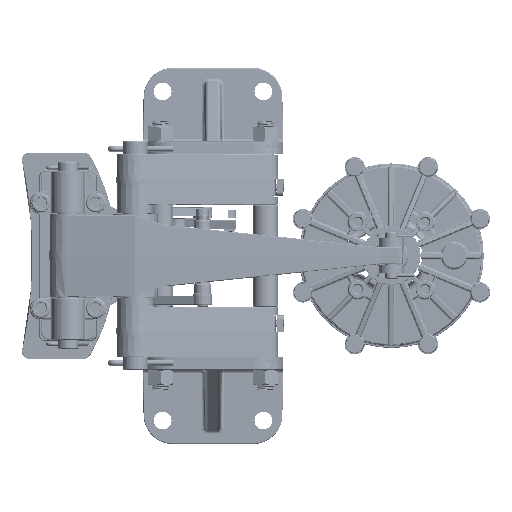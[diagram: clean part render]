
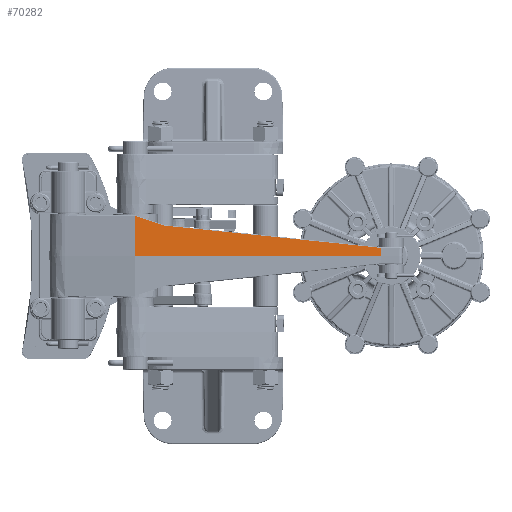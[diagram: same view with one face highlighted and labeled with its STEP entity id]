
A CAD part, top view. The second image highlights one B-rep face of the part: STEP entity #70282.
In plain terms, the highlighted planar face has unit normal (0.048, 0.018, 0.999).
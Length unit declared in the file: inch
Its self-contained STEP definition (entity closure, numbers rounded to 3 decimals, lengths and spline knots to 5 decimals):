
#3627 = CARTESIAN_POINT ( 'NONE',  ( 7.86898, 0.00336, 2.91648 ) ) ;
#5274 = EDGE_LOOP ( 'NONE', ( #45416, #41837, #53367, #137872, #64491, #80829 ) ) ;
#10650 = VERTEX_POINT ( 'NONE', #187514 ) ;
#12518 = CARTESIAN_POINT ( 'NONE',  ( 7.8689, 0.23036, 2.91252 ) ) ;
#16451 = DIRECTION ( 'NONE',  ( -0.999, 0., 0.048 ) ) ;
#18361 = FACE_OUTER_BOUND ( 'NONE', #5274, .T. ) ;
#33215 = LINE ( 'NONE', #160256, #149204 ) ;
#36230 = VERTEX_POINT ( 'NONE', #62778 ) ;
#37890 = VECTOR ( 'NONE', #185084, 39.37008 ) ;
#38144 = EDGE_CURVE ( 'NONE', #170168, #75728, #118565, .T. ) ;
#41837 = ORIENTED_EDGE ( 'NONE', *, *, #105638, .T. ) ;
#45416 = ORIENTED_EDGE ( 'NONE', *, *, #92837, .T. ) ;
#45620 = CARTESIAN_POINT ( 'NONE',  ( 7.8689, 0.23035, 2.91252 ) ) ;
#45712 = LINE ( 'NONE', #88452, #121652 ) ;
#53367 = ORIENTED_EDGE ( 'NONE', *, *, #119296, .F. ) ;
#59330 = CARTESIAN_POINT ( 'NONE',  ( 7.86898, 0., 2.91654 ) ) ;
#60076 = CARTESIAN_POINT ( 'NONE',  ( 0.55815, 0., 3.26499 ) ) ;
#61581 = DIRECTION ( 'NONE',  ( 0.001, 1., -0.018 ) ) ;
#62154 = CARTESIAN_POINT ( 'NONE',  ( 0.6036, 0., 3.26282 ) ) ;
#62778 = CARTESIAN_POINT ( 'NONE',  ( 7.8689, 0.23036, 2.91252 ) ) ;
#64491 = ORIENTED_EDGE ( 'NONE', *, *, #38144, .T. ) ;
#65773 = PLANE ( 'NONE',  #110504 ) ;
#66435 = DIRECTION ( 'NONE',  ( 0.048, 0.017, 0.999 ) ) ;
#70282 = ADVANCED_FACE ( 'NONE', ( #18361 ), #65773, .T. ) ;
#73150 = DIRECTION ( 'NONE',  ( -0.994, 0.102, 0.046 ) ) ;
#75728 = VERTEX_POINT ( 'NONE', #45620 ) ;
#80829 = ORIENTED_EDGE ( 'NONE', *, *, #188656, .T. ) ;
#85065 = EDGE_CURVE ( 'NONE', #170168, #117919, #113886, .T. ) ;
#88452 = CARTESIAN_POINT ( 'NONE',  ( 0.70225, 0.96804, 3.2412 ) ) ;
#92837 = EDGE_CURVE ( 'NONE', #36230, #10650, #45712, .T. ) ;
#97331 = VECTOR ( 'NONE', #16451, 39.37008 ) ;
#97862 = VECTOR ( 'NONE', #61581, 39.37008 ) ;
#103436 = CARTESIAN_POINT ( 'NONE',  ( 7.8689, 0.23036, 2.91252 ) ) ;
#105508 =( BOUNDED_CURVE ( )  B_SPLINE_CURVE ( 3, ( #178657, #193959, #103436, #12518 ),
 .UNSPECIFIED., .F., .T. ) 
 B_SPLINE_CURVE_WITH_KNOTS ( ( 4, 4 ),
 ( 3.14157, 3.14224 ),
 .UNSPECIFIED. ) 
 CURVE ( )  GEOMETRIC_REPRESENTATION_ITEM ( )  RATIONAL_B_SPLINE_CURVE ( ( 1., 1., 1., 1. ) ) 
 REPRESENTATION_ITEM ( '' )  );
#105638 = EDGE_CURVE ( 'NONE', #10650, #183282, #33215, .T. ) ;
#110504 = AXIS2_PLACEMENT_3D ( 'NONE', #156982, #66435, #172213 ) ;
#113886 = LINE ( 'NONE', #62154, #97331 ) ;
#117919 = VERTEX_POINT ( 'NONE', #60076 ) ;
#118565 = LINE ( 'NONE', #3627, #37890 ) ;
#119296 = EDGE_CURVE ( 'NONE', #117919, #183282, #137981, .T. ) ;
#121652 = VECTOR ( 'NONE', #73150, 39.37008 ) ;
#137872 = ORIENTED_EDGE ( 'NONE', *, *, #85065, .F. ) ;
#137981 = LINE ( 'NONE', #151573, #97862 ) ;
#141196 = CARTESIAN_POINT ( 'NONE',  ( 0.55923, 1.17928, 3.24433 ) ) ;
#149204 = VECTOR ( 'NONE', #174813, 39.37008 ) ;
#151573 = CARTESIAN_POINT ( 'NONE',  ( 0.55815, 0.00022, 3.26499 ) ) ;
#156982 = CARTESIAN_POINT ( 'NONE',  ( 0.6036, 0., 3.26282 ) ) ;
#160256 = CARTESIAN_POINT ( 'NONE',  ( 0.95319, 1.04722, 3.22786 ) ) ;
#170168 = VERTEX_POINT ( 'NONE', #59330 ) ;
#172213 = DIRECTION ( 'NONE',  ( -0.999, 0., 0.048 ) ) ;
#174813 = DIRECTION ( 'NONE',  ( -0.947, 0.318, 0.04 ) ) ;
#178657 = CARTESIAN_POINT ( 'NONE',  ( 7.8689, 0.23035, 2.91252 ) ) ;
#183282 = VERTEX_POINT ( 'NONE', #141196 ) ;
#185084 = DIRECTION ( 'NONE',  ( 0., 1., -0.017 ) ) ;
#187514 = CARTESIAN_POINT ( 'NONE',  ( 1.40524, 0.89568, 3.20896 ) ) ;
#188656 = EDGE_CURVE ( 'NONE', #75728, #36230, #105508, .T. ) ;
#193959 = CARTESIAN_POINT ( 'NONE',  ( 7.8689, 0.23035, 2.91252 ) ) ;
